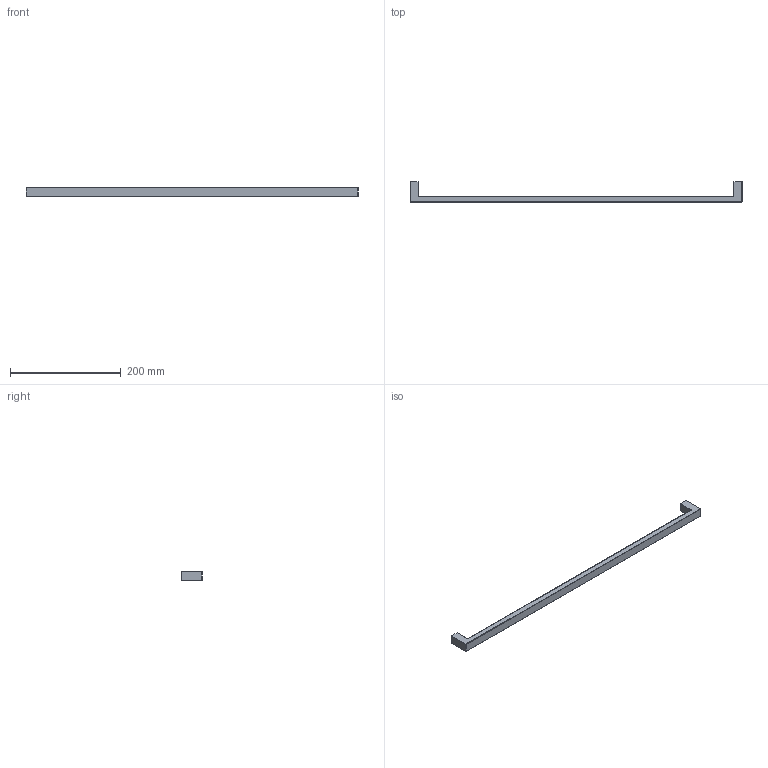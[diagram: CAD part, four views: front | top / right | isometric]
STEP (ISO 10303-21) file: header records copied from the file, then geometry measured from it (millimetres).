
FILE_DESCRIPTION( ( '' ), '1' );
FILE_NAME( 'C:/Documents and Settings/Sachin/Desktop/Sheet 10_1/stp/9113255.stp', '2013-10-22T06:59:15', ( '' ), ( '' ), ' ', ' ', ' ' );
FILE_SCHEMA( ( 'CONFIG_CONTROL_DESIGN' ) );
Length unit declared in the file: millimetre
Products named in the file (1): 1
Bounding box: 599 x 37 x 16 mm (x, y, z)
Volume: 108459.8 mm3; surface area: 34447.5 mm2
Topology: 1 solids, 1 shells, 36 faces, 88 edges, 56 vertices
Faces by surface type: cylinder 20, plane 16
Entity records: 1108 total; most frequent: DIRECTION 198, CARTESIAN_POINT 181, ORIENTED_EDGE 176, EDGE_CURVE 88, AXIS2_PLACEMENT_3D 73, VERTEX_POINT 56, LINE 52, VECTOR 52
